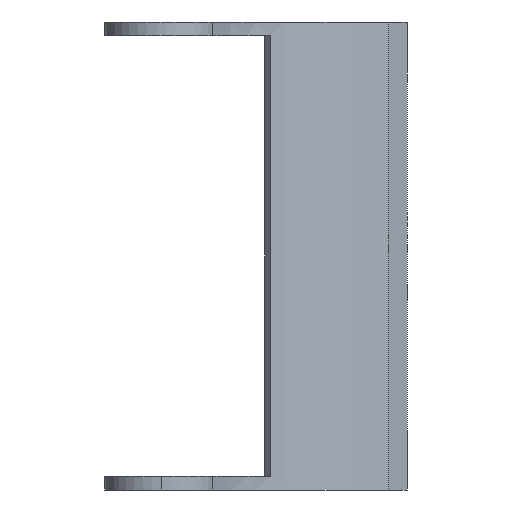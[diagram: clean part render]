
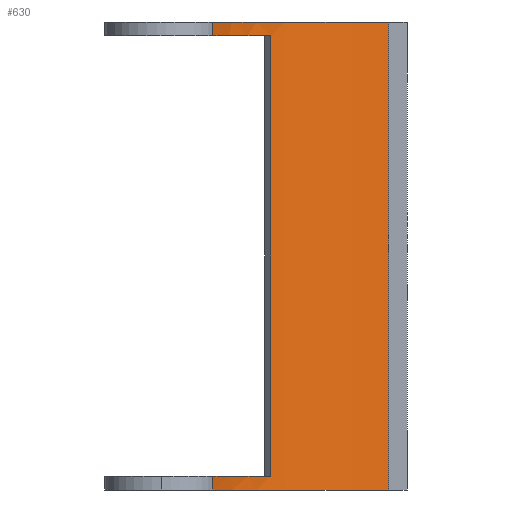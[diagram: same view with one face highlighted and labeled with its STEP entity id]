
A CAD part, left-side view. The second image highlights one B-rep face of the part: STEP entity #630.
In plain terms, the highlighted cylindrical face has radius 50 mm (diameter 100 mm), a partial arc.
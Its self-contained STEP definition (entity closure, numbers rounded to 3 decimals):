
#15 = DIRECTION ( 'NONE',  ( 0., 0., -1. ) ) ;
#47 = DIRECTION ( 'NONE',  ( 1., 0., 0. ) ) ;
#58 = ORIENTED_EDGE ( 'NONE', *, *, #288, .F. ) ;
#84 = DIRECTION ( 'NONE',  ( 0., 0., 1. ) ) ;
#97 = VERTEX_POINT ( 'NONE', #2286 ) ;
#134 = VECTOR ( 'NONE', #1062, 1000. ) ;
#195 = CIRCLE ( 'NONE', #554, 50. ) ;
#205 = CARTESIAN_POINT ( 'NONE',  ( -61.42, 20.241, 100. ) ) ;
#223 = FACE_OUTER_BOUND ( 'NONE', #2303, .T. ) ;
#262 = AXIS2_PLACEMENT_3D ( 'NONE', #733, #1814, #917 ) ;
#272 = EDGE_CURVE ( 'NONE', #1079, #360, #1248, .T. ) ;
#288 = EDGE_CURVE ( 'NONE', #925, #1386, #2131, .T. ) ;
#291 = CARTESIAN_POINT ( 'NONE',  ( -61.42, 20.241, 103. ) ) ;
#330 = CARTESIAN_POINT ( 'NONE',  ( -83.1, -24.814, 94.647 ) ) ;
#331 = ORIENTED_EDGE ( 'NONE', *, *, #791, .T. ) ;
#360 = VERTEX_POINT ( 'NONE', #393 ) ;
#363 = ORIENTED_EDGE ( 'NONE', *, *, #404, .F. ) ;
#364 = DIRECTION ( 'NONE',  ( 1., 0., 0. ) ) ;
#369 = VERTEX_POINT ( 'NONE', #1305 ) ;
#383 = CARTESIAN_POINT ( 'NONE',  ( -44.945, 7.5, 3. ) ) ;
#393 = CARTESIAN_POINT ( 'NONE',  ( -61.42, 20.241, 0. ) ) ;
#404 = EDGE_CURVE ( 'NONE', #97, #360, #1303, .T. ) ;
#409 = VECTOR ( 'NONE', #84, 1000. ) ;
#422 = VERTEX_POINT ( 'NONE', #383 ) ;
#480 = AXIS2_PLACEMENT_3D ( 'NONE', #330, #669, #1564 ) ;
#514 = CIRCLE ( 'NONE', #1240, 50. ) ;
#523 = CARTESIAN_POINT ( 'NONE',  ( -83.1, -24.814, 100. ) ) ;
#554 = AXIS2_PLACEMENT_3D ( 'NONE', #523, #15, #364 ) ;
#560 = CARTESIAN_POINT ( 'NONE',  ( -44.945, 7.5, 134.059 ) ) ;
#594 = DIRECTION ( 'NONE',  ( 1., 0., 0. ) ) ;
#599 = ORIENTED_EDGE ( 'NONE', *, *, #272, .T. ) ;
#630 = ADVANCED_FACE ( 'NONE', ( #223 ), #742, .F. ) ;
#669 = DIRECTION ( 'NONE',  ( 0., 0., -1. ) ) ;
#704 = EDGE_CURVE ( 'NONE', #1292, #369, #195, .T. ) ;
#733 = CARTESIAN_POINT ( 'NONE',  ( -83.1, -24.814, 0. ) ) ;
#738 = VECTOR ( 'NONE', #1032, 1000. ) ;
#742 = CYLINDRICAL_SURFACE ( 'NONE', #480, 50. ) ;
#791 = EDGE_CURVE ( 'NONE', #369, #422, #832, .T. ) ;
#829 = LINE ( 'NONE', #1523, #409 ) ;
#832 = LINE ( 'NONE', #560, #1620 ) ;
#847 = CARTESIAN_POINT ( 'NONE',  ( -33.5, -18.5, 94.647 ) ) ;
#917 = DIRECTION ( 'NONE',  ( 1., 0., 0. ) ) ;
#925 = VERTEX_POINT ( 'NONE', #291 ) ;
#926 = ORIENTED_EDGE ( 'NONE', *, *, #2116, .F. ) ;
#931 = DIRECTION ( 'NONE',  ( 0., 0., -1. ) ) ;
#1032 = DIRECTION ( 'NONE',  ( 0., 0., -1. ) ) ;
#1062 = DIRECTION ( 'NONE',  ( 0., 0., -1. ) ) ;
#1079 = VERTEX_POINT ( 'NONE', #1575 ) ;
#1147 = DIRECTION ( 'NONE',  ( 0., 0., 1. ) ) ;
#1155 = CARTESIAN_POINT ( 'NONE',  ( -83.1, -24.814, 3. ) ) ;
#1240 = AXIS2_PLACEMENT_3D ( 'NONE', #1155, #1147, #594 ) ;
#1248 = LINE ( 'NONE', #1252, #134 ) ;
#1252 = CARTESIAN_POINT ( 'NONE',  ( -61.42, 20.241, 94.647 ) ) ;
#1292 = VERTEX_POINT ( 'NONE', #205 ) ;
#1303 = CIRCLE ( 'NONE', #262, 50. ) ;
#1305 = CARTESIAN_POINT ( 'NONE',  ( -44.945, 7.5, 100. ) ) ;
#1386 = VERTEX_POINT ( 'NONE', #2054 ) ;
#1469 = DIRECTION ( 'NONE',  ( 0., 0., -1. ) ) ;
#1523 = CARTESIAN_POINT ( 'NONE',  ( -61.42, 20.241, 100. ) ) ;
#1564 = DIRECTION ( 'NONE',  ( -1., 0., 0. ) ) ;
#1575 = CARTESIAN_POINT ( 'NONE',  ( -61.42, 20.241, 3. ) ) ;
#1620 = VECTOR ( 'NONE', #931, 1000. ) ;
#1635 = EDGE_CURVE ( 'NONE', #1386, #97, #1805, .T. ) ;
#1805 = LINE ( 'NONE', #847, #738 ) ;
#1814 = DIRECTION ( 'NONE',  ( 0., 0., 1. ) ) ;
#1899 = AXIS2_PLACEMENT_3D ( 'NONE', #1947, #1469, #47 ) ;
#1947 = CARTESIAN_POINT ( 'NONE',  ( -83.1, -24.814, 103. ) ) ;
#1957 = EDGE_CURVE ( 'NONE', #422, #1079, #514, .T. ) ;
#2054 = CARTESIAN_POINT ( 'NONE',  ( -33.5, -18.5, 103. ) ) ;
#2116 = EDGE_CURVE ( 'NONE', #1292, #925, #829, .T. ) ;
#2131 = CIRCLE ( 'NONE', #1899, 50. ) ;
#2198 = ORIENTED_EDGE ( 'NONE', *, *, #1957, .T. ) ;
#2218 = ORIENTED_EDGE ( 'NONE', *, *, #704, .T. ) ;
#2286 = CARTESIAN_POINT ( 'NONE',  ( -33.5, -18.5, 0. ) ) ;
#2303 = EDGE_LOOP ( 'NONE', ( #2335, #58, #926, #2218, #331, #2198, #599, #363 ) ) ;
#2335 = ORIENTED_EDGE ( 'NONE', *, *, #1635, .F. ) ;
